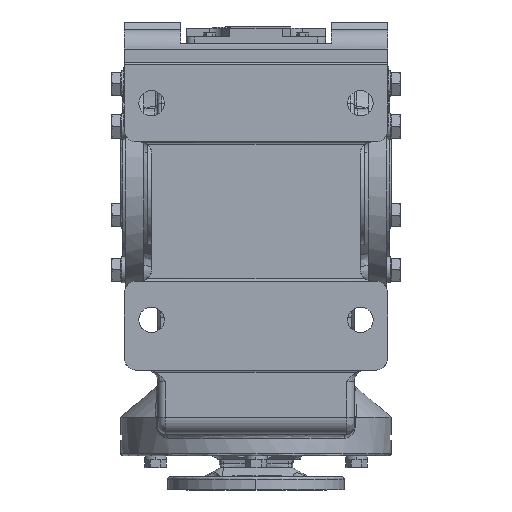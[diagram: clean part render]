
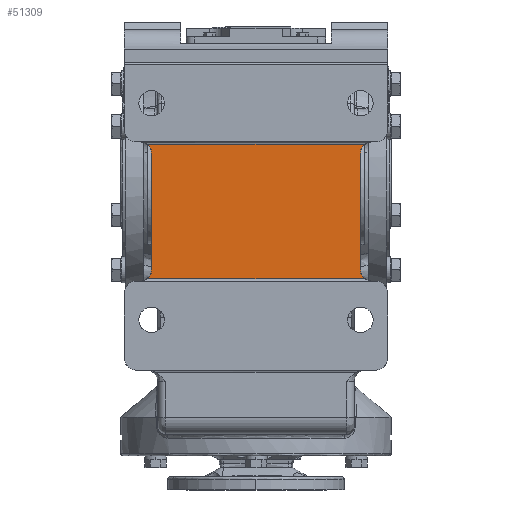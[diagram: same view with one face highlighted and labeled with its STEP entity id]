
A CAD part, front view. The second image highlights one B-rep face of the part: STEP entity #51309.
In plain terms, the highlighted planar face has unit normal (0, -1, 0).
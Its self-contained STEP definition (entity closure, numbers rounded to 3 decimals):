
#6904 = EDGE_LOOP ( 'NONE', ( #80555, #80556, #80557, #80558, #80559, #80560, #80561, #80562 ) ) ;
#14225 = DIRECTION ( 'NONE',  ( 1., 0., 0. ) ) ;
#14241 = CARTESIAN_POINT ( 'NONE',  ( 621.774, -310., 42. ) ) ;
#20117 = AXIS2_PLACEMENT_3D ( 'NONE', #56540, #56541, #56542 ) ;
#20119 = AXIS2_PLACEMENT_3D ( 'NONE', #56543, #56544, #56545 ) ;
#20121 = AXIS2_PLACEMENT_3D ( 'NONE', #56548, #56549, #56550 ) ;
#20123 = AXIS2_PLACEMENT_3D ( 'NONE', #56553, #56554, #56555 ) ;
#20749 = AXIS2_PLACEMENT_3D ( 'NONE', #52334, #52338, #52339 ) ;
#38264 = LINE ( 'NONE', #14241, #38266 ) ;
#38266 = VECTOR ( 'NONE', #14225, 1000. ) ;
#38402 = VECTOR ( 'NONE', #56473, 1000. ) ;
#38478 = LINE ( 'NONE', #56472, #38402 ) ;
#38510 = CIRCLE ( 'NONE', #20119, 15. ) ;
#38512 = CIRCLE ( 'NONE', #20117, 15. ) ;
#38515 = LINE ( 'NONE', #56539, #38517 ) ;
#38516 = CIRCLE ( 'NONE', #20121, 15. ) ;
#38517 = VECTOR ( 'NONE', #56538, 1000. ) ;
#38518 = CIRCLE ( 'NONE', #20123, 15. ) ;
#38519 = LINE ( 'NONE', #56546, #38521 ) ;
#38521 = VECTOR ( 'NONE', #56547, 1000. ) ;
#46081 = EDGE_CURVE ( 'NONE', #83983, #83980, #38264, .T. ) ;
#46202 = EDGE_CURVE ( 'NONE', #84051, #84052, #38478, .T. ) ;
#46224 = EDGE_CURVE ( 'NONE', #84055, #84052, #38512, .T. ) ;
#46225 = EDGE_CURVE ( 'NONE', #84051, #84062, #38510, .T. ) ;
#46226 = EDGE_CURVE ( 'NONE', #84064, #84062, #38515, .T. ) ;
#46227 = EDGE_CURVE ( 'NONE', #84064, #83980, #38516, .T. ) ;
#46228 = EDGE_CURVE ( 'NONE', #83983, #84061, #38518, .T. ) ;
#46229 = EDGE_CURVE ( 'NONE', #84055, #84061, #38519, .T. ) ;
#51309 = ADVANCED_FACE ( 'NONE', ( #68778 ), #52336, .F. ) ;
#52334 = CARTESIAN_POINT ( 'NONE',  ( 621.774, -310., -235. ) ) ;
#52336 = PLANE ( 'NONE',  #20749 ) ;
#52338 = DIRECTION ( 'NONE',  ( 0., 1., 0. ) ) ;
#52339 = DIRECTION ( 'NONE',  ( 0., 0., 1. ) ) ;
#53729 = CARTESIAN_POINT ( 'NONE',  ( 141., -310., 42. ) ) ;
#53735 = CARTESIAN_POINT ( 'NONE',  ( -141., -310., 42. ) ) ;
#53862 = CARTESIAN_POINT ( 'NONE',  ( 141., -310., -132. ) ) ;
#53864 = CARTESIAN_POINT ( 'NONE',  ( -141., -310., -132. ) ) ;
#53870 = CARTESIAN_POINT ( 'NONE',  ( -135., -310., -120. ) ) ;
#53880 = CARTESIAN_POINT ( 'NONE',  ( -135., -310., 30. ) ) ;
#53882 = CARTESIAN_POINT ( 'NONE',  ( 135., -310., -120. ) ) ;
#53886 = CARTESIAN_POINT ( 'NONE',  ( 135., -310., 30. ) ) ;
#56472 = CARTESIAN_POINT ( 'NONE',  ( 621.774, -310., -132. ) ) ;
#56473 = DIRECTION ( 'NONE',  ( -1., 0., 0. ) ) ;
#56538 = DIRECTION ( 'NONE',  ( 0., 0., -1. ) ) ;
#56539 = CARTESIAN_POINT ( 'NONE',  ( 135., -310., 0. ) ) ;
#56540 = CARTESIAN_POINT ( 'NONE',  ( -150., -310., -120. ) ) ;
#56541 = DIRECTION ( 'NONE',  ( 0., 1., 0. ) ) ;
#56542 = DIRECTION ( 'NONE',  ( 0., 0., 1. ) ) ;
#56543 = CARTESIAN_POINT ( 'NONE',  ( 150., -310., -120. ) ) ;
#56544 = DIRECTION ( 'NONE',  ( 0., 1., 0. ) ) ;
#56545 = DIRECTION ( 'NONE',  ( 0., 0., 1. ) ) ;
#56546 = CARTESIAN_POINT ( 'NONE',  ( -135., -310., 0. ) ) ;
#56547 = DIRECTION ( 'NONE',  ( 0., 0., 1. ) ) ;
#56548 = CARTESIAN_POINT ( 'NONE',  ( 150., -310., 30. ) ) ;
#56549 = DIRECTION ( 'NONE',  ( 0., 1., 0. ) ) ;
#56550 = DIRECTION ( 'NONE',  ( 0., 0., -1. ) ) ;
#56553 = CARTESIAN_POINT ( 'NONE',  ( -150., -310., 30. ) ) ;
#56554 = DIRECTION ( 'NONE',  ( 0., 1., 0. ) ) ;
#56555 = DIRECTION ( 'NONE',  ( 0., 0., -1. ) ) ;
#68778 = FACE_OUTER_BOUND ( 'NONE', #6904, .T. ) ;
#80555 = ORIENTED_EDGE ( 'NONE', *, *, #46224, .T. ) ;
#80556 = ORIENTED_EDGE ( 'NONE', *, *, #46202, .F. ) ;
#80557 = ORIENTED_EDGE ( 'NONE', *, *, #46225, .T. ) ;
#80558 = ORIENTED_EDGE ( 'NONE', *, *, #46226, .F. ) ;
#80559 = ORIENTED_EDGE ( 'NONE', *, *, #46227, .T. ) ;
#80560 = ORIENTED_EDGE ( 'NONE', *, *, #46081, .F. ) ;
#80561 = ORIENTED_EDGE ( 'NONE', *, *, #46228, .T. ) ;
#80562 = ORIENTED_EDGE ( 'NONE', *, *, #46229, .F. ) ;
#83980 = VERTEX_POINT ( 'NONE', #53729 ) ;
#83983 = VERTEX_POINT ( 'NONE', #53735 ) ;
#84051 = VERTEX_POINT ( 'NONE', #53862 ) ;
#84052 = VERTEX_POINT ( 'NONE', #53864 ) ;
#84055 = VERTEX_POINT ( 'NONE', #53870 ) ;
#84061 = VERTEX_POINT ( 'NONE', #53880 ) ;
#84062 = VERTEX_POINT ( 'NONE', #53882 ) ;
#84064 = VERTEX_POINT ( 'NONE', #53886 ) ;
